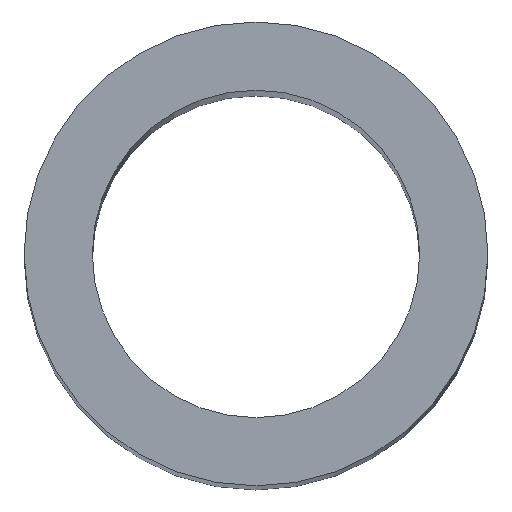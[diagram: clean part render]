
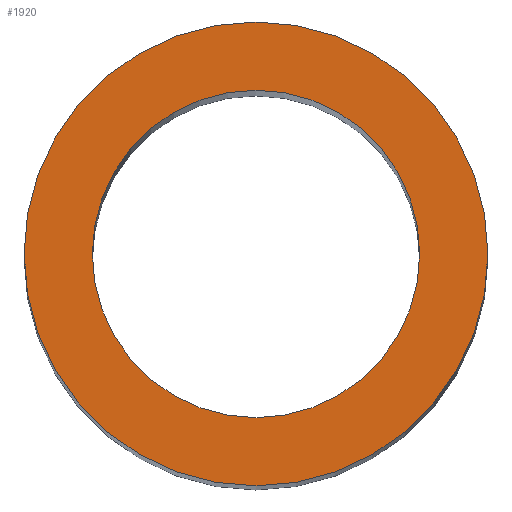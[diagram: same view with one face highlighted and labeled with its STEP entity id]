
A CAD part, top view. The second image highlights one B-rep face of the part: STEP entity #1920.
In plain terms, the highlighted planar face has unit normal (0, 0, 1).
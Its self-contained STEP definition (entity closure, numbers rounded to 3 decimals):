
#1570=CARTESIAN_POINT('',(0.,0.,120.));
#1580=DIRECTION('',(0.,0.,1.));
#1590=DIRECTION('',(1.,0.,0.));
#1600=AXIS2_PLACEMENT_3D('',#1570,#1580,#1590);
#1610=PLANE('',#1600);
#1620=CARTESIAN_POINT('',(49.094,49.871,120.));
#1630=DIRECTION('',(0.,0.,1.));
#1640=DIRECTION('',(1.,0.,0.));
#1650=AXIS2_PLACEMENT_3D('',#1620,#1630,#1640);
#1660=CIRCLE('',#1650,8.5);
#1670=CARTESIAN_POINT('',(57.594,49.871,120.));
#1680=VERTEX_POINT('',#1670);
#1690=CARTESIAN_POINT('',(40.594,49.871,120.));
#1700=VERTEX_POINT('',#1690);
#1710=EDGE_CURVE('',#1680,#1700,#1660,.T.);
#1720=ORIENTED_EDGE('',*,*,#1710,.T.);
#1730=EDGE_CURVE('',#1700,#1680,#1660,.T.);
#1740=ORIENTED_EDGE('',*,*,#1730,.T.);
#1750=EDGE_LOOP('',(#1740,#1720));
#1760=FACE_OUTER_BOUND('',#1750,.T.);
#1770=CARTESIAN_POINT('',(49.094,49.871,120.));
#1780=DIRECTION('',(0.,0.,1.));
#1790=DIRECTION('',(1.,0.,0.));
#1800=AXIS2_PLACEMENT_3D('',#1770,#1780,#1790);
#1810=CIRCLE('',#1800,6.);
#1820=CARTESIAN_POINT('',(55.094,49.871,120.));
#1830=VERTEX_POINT('',#1820);
#1840=CARTESIAN_POINT('',(43.094,49.871,120.));
#1850=VERTEX_POINT('',#1840);
#1860=EDGE_CURVE('',#1830,#1850,#1810,.T.);
#1870=ORIENTED_EDGE('',*,*,#1860,.F.);
#1880=EDGE_CURVE('',#1850,#1830,#1810,.T.);
#1890=ORIENTED_EDGE('',*,*,#1880,.F.);
#1900=EDGE_LOOP('',(#1890,#1870));
#1910=FACE_BOUND('',#1900,.T.);
#1920=ADVANCED_FACE('',(#1760,#1910),#1610,.T.);
